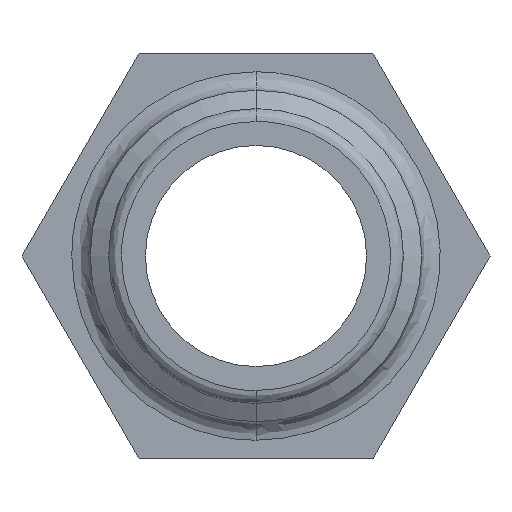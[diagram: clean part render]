
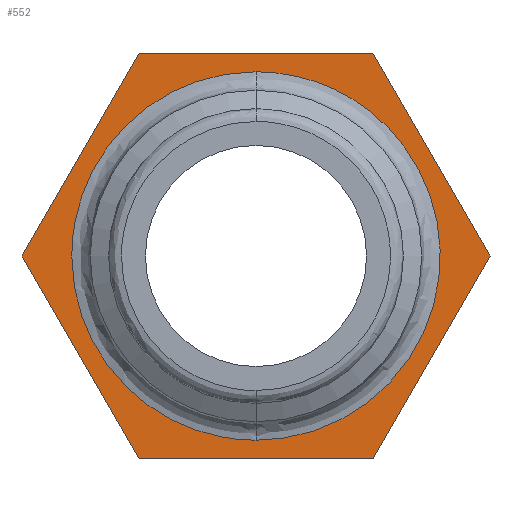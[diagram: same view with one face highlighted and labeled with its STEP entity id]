
A CAD part, front view. The second image highlights one B-rep face of the part: STEP entity #552.
In plain terms, the highlighted planar face has unit normal (0, -1, 0).
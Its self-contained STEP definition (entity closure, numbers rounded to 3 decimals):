
#35 = VERTEX_POINT ( 'NONE', #830 ) ;
#70 = FACE_BOUND ( 'NONE', #357, .T. ) ;
#83 = VECTOR ( 'NONE', #978, 1000. ) ;
#86 = CARTESIAN_POINT ( 'NONE',  ( -2.929, -3., -5. ) ) ;
#96 = CARTESIAN_POINT ( 'NONE',  ( 6.351, -3., 0. ) ) ;
#125 = ORIENTED_EDGE ( 'NONE', *, *, #951, .F. ) ;
#148 = AXIS2_PLACEMENT_3D ( 'NONE', #559, #651, #1179 ) ;
#165 = CARTESIAN_POINT ( 'NONE',  ( -5., -3., 2.929 ) ) ;
#171 = CARTESIAN_POINT ( 'NONE',  ( 0., -3., 5. ) ) ;
#180 = CARTESIAN_POINT ( 'NONE',  ( 0., -3., -5. ) ) ;
#258 = VERTEX_POINT ( 'NONE', #1233 ) ;
#267 = VECTOR ( 'NONE', #749, 1000. ) ;
#297 = CARTESIAN_POINT ( 'NONE',  ( 10., -3., 5. ) ) ;
#298 = LINE ( 'NONE', #96, #1212 ) ;
#322 = EDGE_CURVE ( 'NONE', #258, #930, #624, .T. ) ;
#340 = DIRECTION ( 'NONE',  ( -1., 0., 0. ) ) ;
#346 = CARTESIAN_POINT ( 'NONE',  ( 3.175, -3., 5.5 ) ) ;
#351 = ORIENTED_EDGE ( 'NONE', *, *, #1031, .F. ) ;
#357 = EDGE_LOOP ( 'NONE', ( #1174, #1030, #1012 ) ) ;
#365 = LINE ( 'NONE', #670, #83 ) ;
#380 = DIRECTION ( 'NONE',  ( -0.5, 0., 0.866 ) ) ;
#390 =( BOUNDED_CURVE ( )  B_SPLINE_CURVE ( 3, ( #787, #1197, #297, #996 ),
 .UNSPECIFIED., .F., .T. ) 
 B_SPLINE_CURVE_WITH_KNOTS ( ( 4, 4 ),
 ( 0., 1. ),
 .UNSPECIFIED. ) 
 CURVE ( )  GEOMETRIC_REPRESENTATION_ITEM ( )  RATIONAL_B_SPLINE_CURVE ( ( 1., 0.333, 0.333, 1. ) ) 
 REPRESENTATION_ITEM ( '' )  );
#396 = CARTESIAN_POINT ( 'NONE',  ( 6.351, -3., 0. ) ) ;
#401 = VERTEX_POINT ( 'NONE', #460 ) ;
#433 = EDGE_CURVE ( 'NONE', #594, #719, #365, .T. ) ;
#440 = ORIENTED_EDGE ( 'NONE', *, *, #322, .F. ) ;
#448 = EDGE_CURVE ( 'NONE', #1248, #401, #699, .T. ) ;
#460 = CARTESIAN_POINT ( 'NONE',  ( -5., -3., 0. ) ) ;
#469 = FACE_OUTER_BOUND ( 'NONE', #646, .T. ) ;
#505 = LINE ( 'NONE', #925, #1082 ) ;
#545 = ORIENTED_EDGE ( 'NONE', *, *, #433, .F. ) ;
#552 = ADVANCED_FACE ( 'NONE', ( #70, #469 ), #771, .F. ) ;
#559 = CARTESIAN_POINT ( 'NONE',  ( 0., -3., 0. ) ) ;
#594 = VERTEX_POINT ( 'NONE', #396 ) ;
#624 = LINE ( 'NONE', #346, #267 ) ;
#637 = VECTOR ( 'NONE', #380, 1000. ) ;
#644 = EDGE_CURVE ( 'NONE', #663, #1248, #390, .T. ) ;
#646 = EDGE_LOOP ( 'NONE', ( #351, #545, #814, #440, #125, #1130 ) ) ;
#648 = CARTESIAN_POINT ( 'NONE',  ( -3.175, -3., -5.5 ) ) ;
#651 = DIRECTION ( 'NONE',  ( 0., 1., 0. ) ) ;
#655 =( BOUNDED_CURVE ( )  B_SPLINE_CURVE ( 3, ( #900, #1080, #86, #180 ),
 .UNSPECIFIED., .F., .T. ) 
 B_SPLINE_CURVE_WITH_KNOTS ( ( 4, 4 ),
 ( 0., 1. ),
 .UNSPECIFIED. ) 
 CURVE ( )  GEOMETRIC_REPRESENTATION_ITEM ( )  RATIONAL_B_SPLINE_CURVE ( ( 1., 0.805, 0.805, 1. ) ) 
 REPRESENTATION_ITEM ( '' )  );
#658 = CARTESIAN_POINT ( 'NONE',  ( -3.175, -3., -5.5 ) ) ;
#663 = VERTEX_POINT ( 'NONE', #960 ) ;
#670 = CARTESIAN_POINT ( 'NONE',  ( 3.175, -3., -5.5 ) ) ;
#682 = CARTESIAN_POINT ( 'NONE',  ( 3.175, -3., 5.5 ) ) ;
#699 =( BOUNDED_CURVE ( )  B_SPLINE_CURVE ( 3, ( #171, #1062, #165, #1275 ),
 .UNSPECIFIED., .F., .T. ) 
 B_SPLINE_CURVE_WITH_KNOTS ( ( 4, 4 ),
 ( 0., 1. ),
 .UNSPECIFIED. ) 
 CURVE ( )  GEOMETRIC_REPRESENTATION_ITEM ( )  RATIONAL_B_SPLINE_CURVE ( ( 1., 0.805, 0.805, 1. ) ) 
 REPRESENTATION_ITEM ( '' )  );
#719 = VERTEX_POINT ( 'NONE', #758 ) ;
#747 = VERTEX_POINT ( 'NONE', #658 ) ;
#749 = DIRECTION ( 'NONE',  ( 1., 0., 0. ) ) ;
#758 = CARTESIAN_POINT ( 'NONE',  ( 3.175, -3., -5.5 ) ) ;
#771 = PLANE ( 'NONE',  #148 ) ;
#787 = CARTESIAN_POINT ( 'NONE',  ( 0., -3., -5. ) ) ;
#814 = ORIENTED_EDGE ( 'NONE', *, *, #859, .F. ) ;
#830 = CARTESIAN_POINT ( 'NONE',  ( -6.351, -3., 0. ) ) ;
#855 = EDGE_CURVE ( 'NONE', #747, #35, #1286, .T. ) ;
#859 = EDGE_CURVE ( 'NONE', #930, #594, #298, .T. ) ;
#891 = DIRECTION ( 'NONE',  ( 0.5, 0., -0.866 ) ) ;
#900 = CARTESIAN_POINT ( 'NONE',  ( -5., -3., 0. ) ) ;
#906 = DIRECTION ( 'NONE',  ( 0.5, 0., 0.866 ) ) ;
#912 = VECTOR ( 'NONE', #340, 1000. ) ;
#919 = EDGE_CURVE ( 'NONE', #401, #663, #655, .T. ) ;
#925 = CARTESIAN_POINT ( 'NONE',  ( -3.175, -3., 5.5 ) ) ;
#930 = VERTEX_POINT ( 'NONE', #682 ) ;
#951 = EDGE_CURVE ( 'NONE', #35, #258, #505, .T. ) ;
#960 = CARTESIAN_POINT ( 'NONE',  ( 0., -3., -5. ) ) ;
#978 = DIRECTION ( 'NONE',  ( -0.5, 0., -0.866 ) ) ;
#996 = CARTESIAN_POINT ( 'NONE',  ( 0., -3., 5. ) ) ;
#997 = CARTESIAN_POINT ( 'NONE',  ( -6.351, -3., 0. ) ) ;
#1012 = ORIENTED_EDGE ( 'NONE', *, *, #919, .F. ) ;
#1030 = ORIENTED_EDGE ( 'NONE', *, *, #644, .F. ) ;
#1031 = EDGE_CURVE ( 'NONE', #719, #747, #1037, .T. ) ;
#1037 = LINE ( 'NONE', #648, #912 ) ;
#1059 = CARTESIAN_POINT ( 'NONE',  ( 0., -3., 5. ) ) ;
#1062 = CARTESIAN_POINT ( 'NONE',  ( -2.929, -3., 5. ) ) ;
#1080 = CARTESIAN_POINT ( 'NONE',  ( -5., -3., -2.929 ) ) ;
#1082 = VECTOR ( 'NONE', #906, 1000. ) ;
#1130 = ORIENTED_EDGE ( 'NONE', *, *, #855, .F. ) ;
#1174 = ORIENTED_EDGE ( 'NONE', *, *, #448, .F. ) ;
#1179 = DIRECTION ( 'NONE',  ( 0., 0., 1. ) ) ;
#1197 = CARTESIAN_POINT ( 'NONE',  ( 10., -3., -5. ) ) ;
#1212 = VECTOR ( 'NONE', #891, 1000. ) ;
#1233 = CARTESIAN_POINT ( 'NONE',  ( -3.175, -3., 5.5 ) ) ;
#1248 = VERTEX_POINT ( 'NONE', #1059 ) ;
#1275 = CARTESIAN_POINT ( 'NONE',  ( -5., -3., 0. ) ) ;
#1286 = LINE ( 'NONE', #997, #637 ) ;
